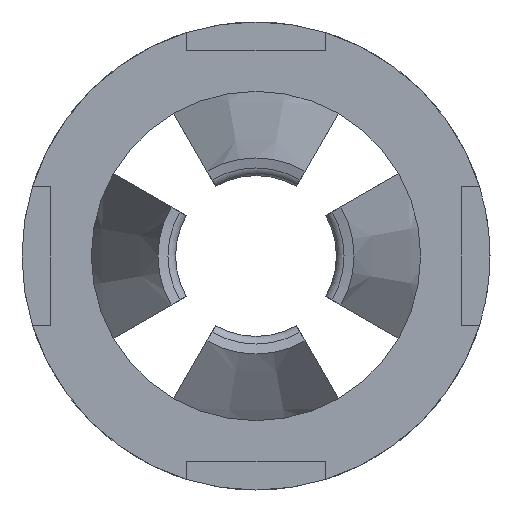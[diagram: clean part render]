
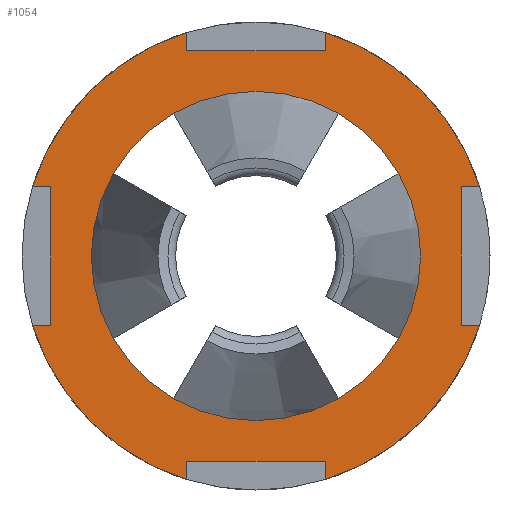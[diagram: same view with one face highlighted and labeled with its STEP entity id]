
A CAD part, left-side view. The second image highlights one B-rep face of the part: STEP entity #1054.
In plain terms, the highlighted planar face has unit normal (-1, 0, 0).
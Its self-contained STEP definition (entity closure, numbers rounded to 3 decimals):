
#65=PLANE('',#1194);
#73=FACE_BOUND('',#352,.T.);
#114=LINE('',#1875,#194);
#118=LINE('',#1884,#198);
#122=LINE('',#1893,#202);
#126=LINE('',#1902,#206);
#128=LINE('',#1906,#208);
#131=LINE('',#1912,#211);
#134=LINE('',#1918,#214);
#137=LINE('',#1924,#217);
#140=LINE('',#1930,#220);
#143=LINE('',#1936,#223);
#146=LINE('',#1942,#226);
#149=LINE('',#1948,#229);
#194=VECTOR('',#1415,10.);
#198=VECTOR('',#1421,10.);
#202=VECTOR('',#1427,10.);
#206=VECTOR('',#1433,10.);
#208=VECTOR('',#1437,10.);
#211=VECTOR('',#1442,10.);
#214=VECTOR('',#1447,10.);
#217=VECTOR('',#1452,10.);
#220=VECTOR('',#1457,10.);
#223=VECTOR('',#1462,10.);
#226=VECTOR('',#1467,10.);
#229=VECTOR('',#1472,10.);
#288=FACE_OUTER_BOUND('',#351,.T.);
#351=EDGE_LOOP('',(#970,#971,#972,#973,#974,#975,#976,#977,#978,#979,#980,
#981,#982,#983,#984,#985));
#352=EDGE_LOOP('',(#986));
#411=CIRCLE('',#1190,13.5);
#412=CIRCLE('',#1191,13.5);
#413=CIRCLE('',#1192,13.5);
#414=CIRCLE('',#1193,13.5);
#415=CIRCLE('',#1195,9.5);
#497=VERTEX_POINT('',#1872);
#498=VERTEX_POINT('',#1874);
#501=VERTEX_POINT('',#1881);
#502=VERTEX_POINT('',#1883);
#505=VERTEX_POINT('',#1890);
#506=VERTEX_POINT('',#1892);
#509=VERTEX_POINT('',#1899);
#510=VERTEX_POINT('',#1901);
#511=VERTEX_POINT('',#1905);
#513=VERTEX_POINT('',#1911);
#515=VERTEX_POINT('',#1917);
#517=VERTEX_POINT('',#1923);
#519=VERTEX_POINT('',#1929);
#521=VERTEX_POINT('',#1935);
#523=VERTEX_POINT('',#1941);
#525=VERTEX_POINT('',#1947);
#529=VERTEX_POINT('',#1972);
#633=EDGE_CURVE('',#498,#497,#114,.T.);
#637=EDGE_CURVE('',#502,#501,#118,.T.);
#641=EDGE_CURVE('',#506,#505,#122,.T.);
#645=EDGE_CURVE('',#510,#509,#126,.T.);
#647=EDGE_CURVE('',#511,#501,#128,.T.);
#650=EDGE_CURVE('',#510,#513,#131,.T.);
#653=EDGE_CURVE('',#515,#509,#134,.T.);
#656=EDGE_CURVE('',#506,#517,#137,.T.);
#659=EDGE_CURVE('',#519,#497,#140,.T.);
#662=EDGE_CURVE('',#502,#521,#143,.T.);
#665=EDGE_CURVE('',#498,#523,#146,.T.);
#668=EDGE_CURVE('',#525,#505,#149,.T.);
#677=EDGE_CURVE('',#513,#511,#411,.T.);
#678=EDGE_CURVE('',#521,#519,#412,.T.);
#680=EDGE_CURVE('',#523,#525,#413,.T.);
#681=EDGE_CURVE('',#517,#515,#414,.T.);
#682=EDGE_CURVE('',#529,#529,#415,.T.);
#970=ORIENTED_EDGE('',*,*,#633,.T.);
#971=ORIENTED_EDGE('',*,*,#659,.F.);
#972=ORIENTED_EDGE('',*,*,#678,.F.);
#973=ORIENTED_EDGE('',*,*,#662,.F.);
#974=ORIENTED_EDGE('',*,*,#637,.T.);
#975=ORIENTED_EDGE('',*,*,#647,.F.);
#976=ORIENTED_EDGE('',*,*,#677,.F.);
#977=ORIENTED_EDGE('',*,*,#650,.F.);
#978=ORIENTED_EDGE('',*,*,#645,.T.);
#979=ORIENTED_EDGE('',*,*,#653,.F.);
#980=ORIENTED_EDGE('',*,*,#681,.F.);
#981=ORIENTED_EDGE('',*,*,#656,.F.);
#982=ORIENTED_EDGE('',*,*,#641,.T.);
#983=ORIENTED_EDGE('',*,*,#668,.F.);
#984=ORIENTED_EDGE('',*,*,#680,.F.);
#985=ORIENTED_EDGE('',*,*,#665,.F.);
#986=ORIENTED_EDGE('',*,*,#682,.F.);
#1054=ADVANCED_FACE('',(#288,#73),#65,.T.);
#1190=AXIS2_PLACEMENT_3D('',#1966,#1499,#1500);
#1191=AXIS2_PLACEMENT_3D('',#1967,#1501,#1502);
#1192=AXIS2_PLACEMENT_3D('',#1969,#1504,#1505);
#1193=AXIS2_PLACEMENT_3D('',#1970,#1506,#1507);
#1194=AXIS2_PLACEMENT_3D('',#1971,#1508,#1509);
#1195=AXIS2_PLACEMENT_3D('',#1973,#1510,#1511);
#1415=DIRECTION('',(0.,0.,1.));
#1421=DIRECTION('',(0.,1.,0.));
#1427=DIRECTION('',(0.,-1.,0.));
#1433=DIRECTION('',(0.,0.,-1.));
#1437=DIRECTION('',(0.,0.,-1.));
#1442=DIRECTION('',(0.,1.,0.));
#1447=DIRECTION('',(0.,-1.,0.));
#1452=DIRECTION('',(0.,0.,-1.));
#1457=DIRECTION('',(0.,1.,0.));
#1462=DIRECTION('',(0.,0.,1.));
#1467=DIRECTION('',(0.,-1.,0.));
#1472=DIRECTION('',(0.,0.,1.));
#1499=DIRECTION('center_axis',(1.,0.,0.));
#1500=DIRECTION('ref_axis',(0.,0.,1.));
#1501=DIRECTION('center_axis',(1.,0.,0.));
#1502=DIRECTION('ref_axis',(0.,0.,1.));
#1504=DIRECTION('center_axis',(1.,0.,0.));
#1505=DIRECTION('ref_axis',(0.,0.,1.));
#1506=DIRECTION('center_axis',(1.,0.,0.));
#1507=DIRECTION('ref_axis',(0.,0.,1.));
#1508=DIRECTION('center_axis',(-1.,0.,0.));
#1509=DIRECTION('ref_axis',(0.,0.,1.));
#1510=DIRECTION('center_axis',(-1.,0.,0.));
#1511=DIRECTION('ref_axis',(0.,0.,1.));
#1872=CARTESIAN_POINT('',(-80.,-11.843,4.));
#1874=CARTESIAN_POINT('',(-80.,-11.843,-4.));
#1875=CARTESIAN_POINT('',(-80.,-11.843,2.));
#1881=CARTESIAN_POINT('',(-80.,4.,11.843));
#1883=CARTESIAN_POINT('',(-80.,-4.,11.843));
#1884=CARTESIAN_POINT('',(-80.,6.75,11.843));
#1890=CARTESIAN_POINT('',(-80.,-4.,-11.843));
#1892=CARTESIAN_POINT('',(-80.,4.,-11.843));
#1893=CARTESIAN_POINT('',(-80.,2.75,-11.843));
#1899=CARTESIAN_POINT('',(-80.,11.843,-4.));
#1901=CARTESIAN_POINT('',(-80.,11.843,4.));
#1902=CARTESIAN_POINT('',(-80.,11.843,-2.));
#1905=CARTESIAN_POINT('',(-80.,4.,12.894));
#1906=CARTESIAN_POINT('',(-80.,4.,5.921));
#1911=CARTESIAN_POINT('',(-80.,12.894,4.));
#1912=CARTESIAN_POINT('',(-80.,6.447,4.));
#1917=CARTESIAN_POINT('',(-80.,12.894,-4.));
#1918=CARTESIAN_POINT('',(-80.,5.921,-4.));
#1923=CARTESIAN_POINT('',(-80.,4.,-12.894));
#1924=CARTESIAN_POINT('',(-80.,4.,-6.447));
#1929=CARTESIAN_POINT('',(-80.,-12.894,4.));
#1930=CARTESIAN_POINT('',(-80.,-5.921,4.));
#1935=CARTESIAN_POINT('',(-80.,-4.,12.894));
#1936=CARTESIAN_POINT('',(-80.,-4.,6.447));
#1941=CARTESIAN_POINT('',(-80.,-12.894,-4.));
#1942=CARTESIAN_POINT('',(-80.,-6.447,-4.));
#1947=CARTESIAN_POINT('',(-80.,-4.,-12.894));
#1948=CARTESIAN_POINT('',(-80.,-4.,-5.921));
#1966=CARTESIAN_POINT('Origin',(-80.,0.,0.));
#1967=CARTESIAN_POINT('Origin',(-80.,0.,0.));
#1969=CARTESIAN_POINT('Origin',(-80.,0.,0.));
#1970=CARTESIAN_POINT('Origin',(-80.,0.,0.));
#1971=CARTESIAN_POINT('Origin',(-80.,9.5,0.));
#1972=CARTESIAN_POINT('',(-80.,-9.5,0.));
#1973=CARTESIAN_POINT('Origin',(-80.,0.,0.));
